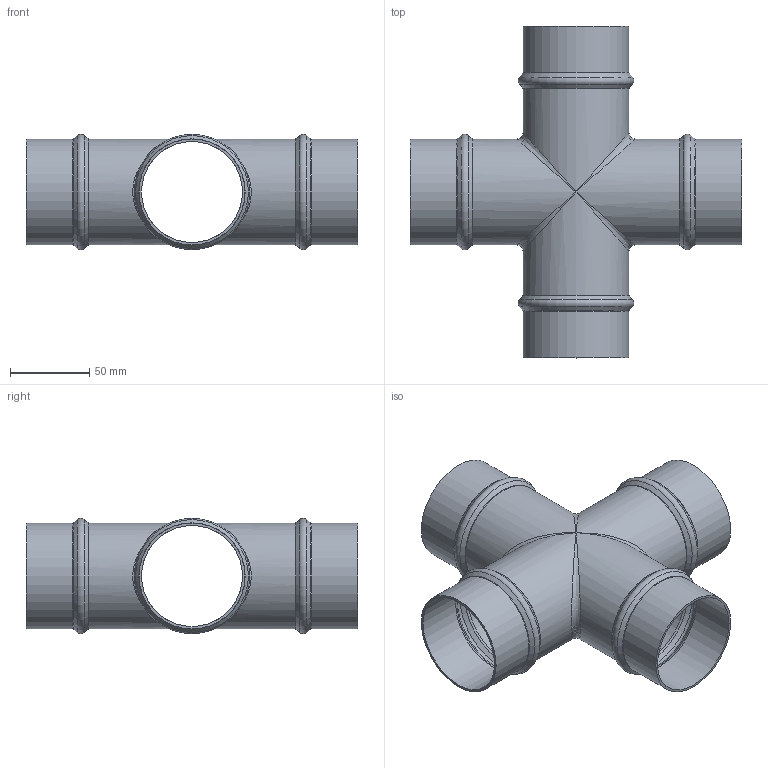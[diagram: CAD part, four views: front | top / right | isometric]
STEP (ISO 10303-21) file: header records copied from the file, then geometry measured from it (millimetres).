
FILE_DESCRIPTION(/* description */ (''),/* implementation_level */ '2;1');
FILE_NAME(/* name */ '30214060001.stp',/* time_stamp */ '2024-08-28T13:18:54+08:00',/* author */ (''),/* organization */ (''),/* preprocessor_version */ 'ST-DEVELOPER v14',/* originating_system */ 'SIEMENS PLM Software NX 8.0',/* authorisation */ '');
FILE_SCHEMA (('CONFIG_CONTROL_DESIGN'));
Length unit declared in the file: millimetre
Products named in the file (1): 30214060001
Bounding box: 210 x 210 x 73 mm (x, y, z)
Volume: 107510.9 mm3; surface area: 143572.2 mm2
Topology: 1 solids, 1 shells, 64 faces, 136 edges, 64 vertices
Faces by surface type: torus 24, cylinder 16, cone 16, plane 4, bspline 4
Full cylindrical faces by diameter (mm): 64 x8, 67 x8
Entity records: 1584 total; most frequent: CARTESIAN_POINT 405, DIRECTION 258, ORIENTED_EDGE 136, AXIS2_PLACEMENT_3D 129, EDGE_LOOP 124, FACE_BOUND 120, EDGE_CURVE 68, ADVANCED_FACE 64
